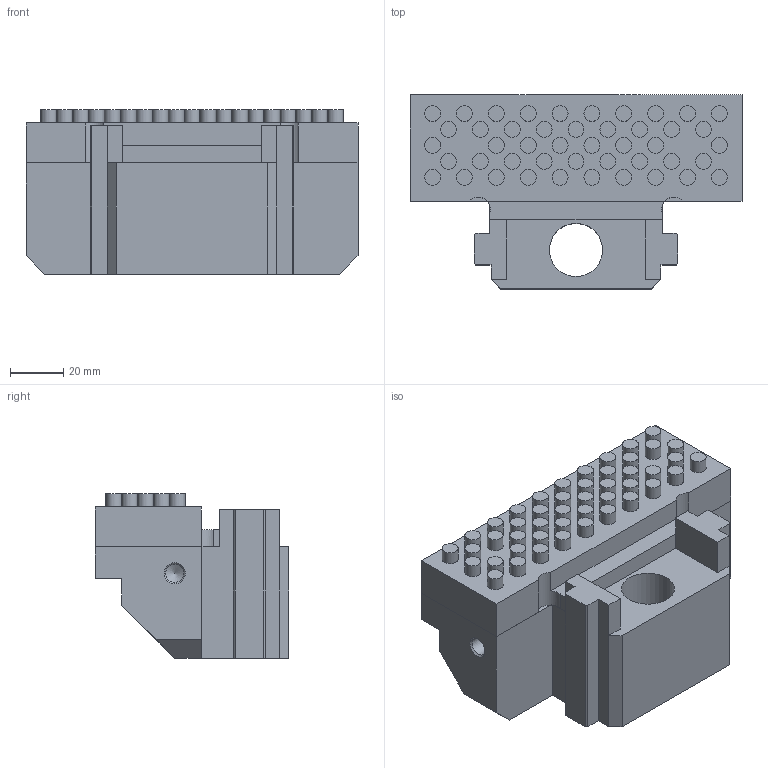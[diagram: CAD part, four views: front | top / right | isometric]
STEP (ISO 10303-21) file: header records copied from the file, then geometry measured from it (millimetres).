
FILE_DESCRIPTION (( 'STEP AP214' ), '1' );
FILE_NAME ('42018-125.STEP', '2020-04-06T09:22:43', ( '' ), ( '' ), 'SwSTEP 2.0', 'SolidWorks 2019', '' );
FILE_SCHEMA (( 'AUTOMOTIVE_DESIGN' ));
Length unit declared in the file: millimetre
Products named in the file (1): 42018-125
Bounding box: 125 x 73 x 62 mm (x, y, z)
Volume: 310664.3 mm3; surface area: 59102.4 mm2
Topology: 4 solids, 4 shells, 220 faces, 456 edges, 294 vertices
Faces by surface type: plane 127, cylinder 61, cone 26, torus 6
Full cylindrical faces by diameter (mm): 6 x46, 6.8 x4, 8 x2, 9 x2, 13 x2, 15 x2, 20 x1
Entity records: 7934 total; most frequent: CARTESIAN_POINT 1008, DIRECTION 955, ORIENTED_EDGE 734, AXIS2_PLACEMENT_3D 381, EDGE_CURVE 367, EDGE_LOOP 355, FACE_OUTER_BOUND 285, VERTEX_POINT 284
